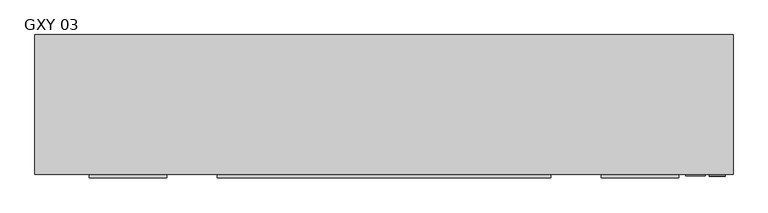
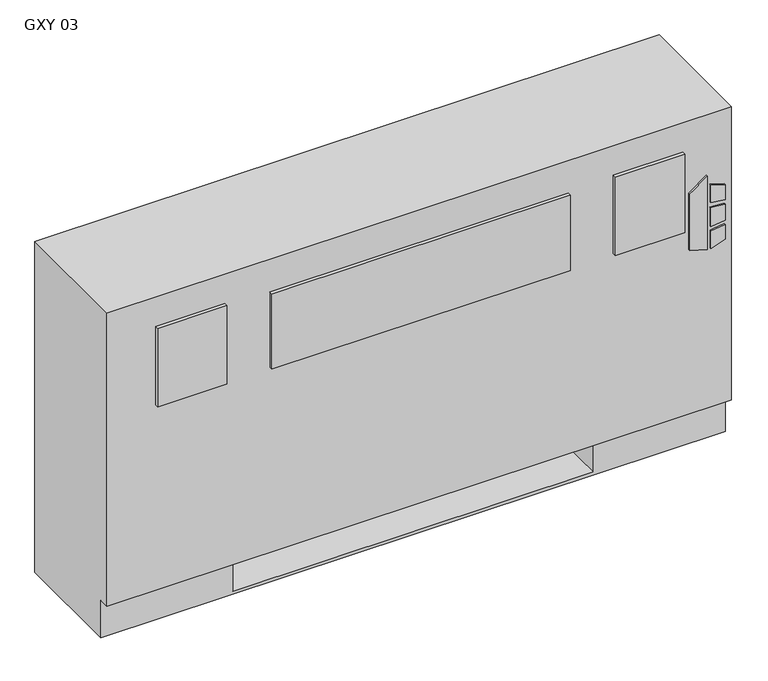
"""IFC4 building model written with IfcOpenShell, lengths in millimetres: proxy geometry, Vertical_Fan_Coil_Unit_-_GXY_-_IEC_-_2-Pipe_FS-FR_LH_2022 : GXY 03."""

from ifc_helpers import new_model, si_unit, point, frame, frame_2d, origin, place, context, project, spatial, polyline, circle_curve, trimmed, segment, composite_curve, outline, extrude, source, transform, mapped, element, save
from ifc_brep_helpers import plane_surface, revolved_surface, advanced_brep


def gxy_03_f8413b3b(model_context):
    return source(origin(), model_context, "Body", "SolidModel", [
        extrude(outline(polyline([(391.6086829, 646.1868862), (381.6606126, 678.3602728), (523.831537, 678.3602728), (500.8095309, 646.1868862), (391.6086829, 646.1868862)])), frame((0.0, 12.7, 0.0), z_axis=(0.0, 1.0, 0.0), x_axis=(0.0, 0.0, 1.0)), (0.0, 0.0, 1.0), 3.175),
        extrude(outline(polyline([(470.6079683, 685.1186058), (467.4055757, 711.2), (496.6344168, 711.2), (504.6988318, 685.1186058), (470.6079683, 685.1186058)])), frame((0.0, 12.7, 0.0), z_axis=(0.0, 1.0, 0.0), x_axis=(0.0, 0.0, 1.0)), (0.0, 0.0, 1.0), 3.175),
        extrude(outline(polyline([(418.7444414, 711.2), (415.0789404, 685.1186058), (381.6606126, 685.1186058), (390.2948498, 711.2), (418.7444414, 711.2)])), frame((0.0, 12.7, 0.0), z_axis=(0.0, 1.0, 0.0), x_axis=(0.0, 0.0, 1.0)), (0.0, 0.0, 1.0), 3.175),
        extrude(outline(polyline([(458.0596028, 711.2), (460.3414292, 685.1186058), (424.4038806, 685.1186058), (427.1451456, 711.2), (458.0596028, 711.2)])), frame((0.0, 12.7, 0.0), z_axis=(0.0, 1.0, 0.0), x_axis=(0.0, 0.0, 1.0)), (0.0, 0.0, 1.0), 3.175),
        extrude(outline(polyline([(-203.2, 9.525), (-330.2, 9.525), (-330.2, 15.875), (-203.2, 15.875), (-203.2, 9.525)])), frame((0.0, 0.0, 431.8), z_axis=(0.0, 0.0, 1.0), x_axis=(1.0, 0.0, 0.0)), (0.0, 0.0, 1.0), 152.4),
        extrude(outline(polyline([(425.45, 9.525), (-120.65, 9.525), (-120.65, 15.875), (425.45, 15.875), (425.45, 9.525)])), frame((0.0, 0.0, 431.8), z_axis=(0.0, 0.0, 1.0), x_axis=(1.0, 0.0, 0.0)), (0.0, 0.0, 1.0), 146.05),
        extrude(outline(polyline([(635.0, 9.525), (508.0, 9.525), (508.0, 15.875), (635.0, 15.875), (635.0, 9.525)])), frame((0.0, 0.0, 431.8), z_axis=(0.0, 0.0, 1.0), x_axis=(1.0, 0.0, 0.0)), (0.0, 0.0, 1.0), 152.4),
        extrude(outline(polyline([(482.6, 81.534), (482.6, 223.266), (603.25, 223.266), (603.25, 81.534), (482.6, 81.534)])), frame((0.0, 0.0, 327.025), z_axis=(0.0, 0.0, 1.0), x_axis=(1.0, 0.0, 0.0)), (0.0, 0.0, 1.0), 260.35),
        extrude(outline(composite_curve([segment(trimmed(circle_curve(frame_2d((78.9432, 398.5514)), 7.9375), [point((78.9432, 406.4889))], [point((78.9432, 390.6139))], False, "CARTESIAN"), True, "CONTINUOUS"), segment(trimmed(circle_curve(frame_2d((78.9432, 398.5514)), 7.9375), [point((78.9432, 390.6139))], [point((78.9432, 406.4889))], False, "CARTESIAN"), True, "CONTINUOUS")], self_intersect=False)), frame((-228.6, 0.0, 0.0), z_axis=(1.0, 0.0, 0.0), x_axis=(0.0, 1.0, 0.0)), (0.0, 0.0, 1.0), 50.8),
        extrude(outline(composite_curve([segment(trimmed(circle_curve(frame_2d((155.9052, 537.3878)), 7.9375), [point((155.9052, 545.3253))], [point((155.9052, 529.4503))], False, "CARTESIAN"), True, "CONTINUOUS"), segment(trimmed(circle_curve(frame_2d((155.9052, 537.3878)), 7.9375), [point((155.9052, 529.4503))], [point((155.9052, 545.3253))], False, "CARTESIAN"), True, "CONTINUOUS")], self_intersect=False)), frame((-228.6, 0.0, 0.0), z_axis=(1.0, 0.0, 0.0), x_axis=(0.0, 1.0, 0.0)), (0.0, 0.0, 1.0), 50.8),
        advanced_brep(
        [(723.9, 244.475, 641.35), (-419.1, 244.475, 641.35), (-419.1, 15.875, 641.35), (723.9, 15.875, 641.35), (-419.1, 244.475, 0.0), (723.9, 244.475, 0.0), (723.9, 34.925, 0.0), (-419.1, 34.925, 0.0), (482.6, 244.475, 73.025), (711.2, 244.475, 73.025), (711.2, 244.475, 628.65), (482.6, 244.475, 628.65), (482.6, 244.475, 418.0400565), (511.175, 244.475, 418.0400565), (511.175, 244.475, 388.4099435), (482.6, 244.475, 388.4099435), (482.6, 244.475, 290.5125), (511.175, 244.475, 290.5125), (511.175, 244.475, 261.9375), (482.6, 244.475, 261.9375), (482.6, 244.475, 119.0625), (511.175, 244.475, 119.0625), (511.175, 244.475, 90.4875), (482.6, 244.475, 90.4875), (-177.8, 244.475, 628.65), (-406.4, 244.475, 628.65), (-406.4, 244.475, 73.025), (-177.8, 244.475, 73.025), (-177.8, 244.475, 90.4875), (-206.375, 244.475, 90.4875), (-206.375, 244.475, 119.0625), (-177.8, 244.475, 119.0625), (-177.8, 244.475, 261.9375), (-206.375, 244.475, 261.9375), (-206.375, 244.475, 290.5125), (-177.8, 244.475, 290.5125), (-177.8, 244.475, 388.4099435), (-206.375, 244.475, 388.4099435), (-206.375, 244.475, 418.0400565), (-177.8, 244.475, 418.0400565), (500.8626, 244.475, 104.775), (489.7374, 244.475, 104.775), (500.8626, 244.475, 403.225), (489.7374, 244.475, 403.225), (500.8626, 244.475, 276.225), (489.7374, 244.475, 276.225), (-184.9374, 244.475, 104.775), (-196.0626, 244.475, 104.775), (-184.9374, 244.475, 276.225), (-196.0626, 244.475, 276.225), (-184.9374, 244.475, 403.225), (-196.0626, 244.475, 403.225), (-419.1, 34.925, 73.025), (-419.1, 15.875, 73.025), (723.9, 15.875, 73.025), (723.9, 34.925, 73.025), (-177.8, 34.925, 73.025), (-177.8, 219.075, 73.025), (482.6, 219.075, 73.025), (482.6, 34.925, 73.025), (482.6, 34.925, 6.35), (-177.8, 34.925, 6.35), (482.6, 41.275, 628.65), (711.2, 41.275, 628.65), (711.2, 41.275, 73.025), (482.6, 41.275, 73.025), (-177.8, 41.275, 628.65), (-177.8, 41.275, 73.025), (-406.4, 41.275, 73.025), (-406.4, 41.275, 628.65), (482.6, 219.075, 73.025), (482.6, 238.125, 90.4875), (482.6, 238.125, 119.0625), (482.6, 238.125, 261.9375), (482.6, 238.125, 290.5125), (482.6, 238.125, 388.4099435), (482.6, 238.125, 418.0400565), (-177.8, 219.075, 73.025), (-177.8, 238.125, 418.0400565), (-177.8, 238.125, 388.4099435), (-177.8, 238.125, 290.5125), (-177.8, 238.125, 261.9375), (-177.8, 238.125, 119.0625), (-177.8, 238.125, 90.4875), (-177.8, 219.075, 6.35), (482.6, 219.075, 6.35), (511.175, 238.125, 90.4875), (511.175, 238.125, 119.0625), (489.7374, 238.125, 104.775), (500.8626, 238.125, 104.775), (511.175, 238.125, 261.9375), (511.175, 238.125, 290.5125), (489.7374, 238.125, 276.225), (500.8626, 238.125, 276.225), (511.175, 238.125, 388.4099435), (511.175, 238.125, 418.0400565), (489.7374, 238.125, 403.225), (500.8626, 238.125, 403.225), (-206.375, 238.125, 119.0625), (-206.375, 238.125, 90.4875), (-196.0626, 238.125, 104.775), (-184.9374, 238.125, 104.775), (-206.375, 238.125, 290.5125), (-206.375, 238.125, 261.9375), (-196.0626, 238.125, 276.225), (-184.9374, 238.125, 276.225), (-206.375, 238.125, 418.0400565), (-206.375, 238.125, 388.4099435), (-196.0626, 238.125, 403.225), (-184.9374, 238.125, 403.225)],
        [
            (0, 1),
            (1, 2),
            (2, 3),
            (3, 0),
            (4, 5),
            (5, 6),
            (6, 7),
            (7, 4),
            (0, 5),
            (4, 1),
            (8, 9),
            (9, 10),
            (10, 11),
            (11, 12),
            (12, 13),
            (13, 14),
            (14, 15),
            (15, 16),
            (16, 17),
            (17, 18),
            (18, 19),
            (19, 20),
            (20, 21),
            (21, 22),
            (22, 23),
            (23, 8),
            (24, 25),
            (25, 26),
            (26, 27),
            (27, 28),
            (28, 29),
            (29, 30),
            (30, 31),
            (31, 32),
            (32, 33),
            (33, 34),
            (34, 35),
            (35, 36),
            (36, 37),
            (37, 38),
            (38, 39),
            (39, 24),
            (40, 41, circle_curve(frame((495.3, 244.475, 104.775), z_axis=(0.0, -1.0, 0.0), x_axis=(-1.0, 0.0, 0.0)), 5.5626)),
            (41, 40, circle_curve(frame((495.3, 244.475, 104.775), z_axis=(0.0, -1.0, 0.0), x_axis=(-1.0, 0.0, 0.0)), 5.5626)),
            (42, 43, circle_curve(frame((495.3, 244.475, 403.225), z_axis=(0.0, -1.0, 0.0), x_axis=(-1.0, 0.0, 0.0)), 5.5626)),
            (43, 42, circle_curve(frame((495.3, 244.475, 403.225), z_axis=(0.0, -1.0, 0.0), x_axis=(-1.0, 0.0, 0.0)), 5.5626)),
            (44, 45, circle_curve(frame((495.3, 244.475, 276.225), z_axis=(0.0, -1.0, 0.0), x_axis=(-1.0, 0.0, 0.0)), 5.5626)),
            (45, 44, circle_curve(frame((495.3, 244.475, 276.225), z_axis=(0.0, -1.0, 0.0), x_axis=(-1.0, 0.0, 0.0)), 5.5626)),
            (46, 47, circle_curve(frame((-190.5, 244.475, 104.775), z_axis=(0.0, -1.0, 0.0), x_axis=(-1.0, 0.0, 0.0)), 5.5626)),
            (47, 46, circle_curve(frame((-190.5, 244.475, 104.775), z_axis=(0.0, -1.0, 0.0), x_axis=(-1.0, 0.0, 0.0)), 5.5626)),
            (48, 49, circle_curve(frame((-190.5, 244.475, 276.225), z_axis=(0.0, -1.0, 0.0), x_axis=(-1.0, 0.0, 0.0)), 5.5626)),
            (49, 48, circle_curve(frame((-190.5, 244.475, 276.225), z_axis=(0.0, -1.0, 0.0), x_axis=(-1.0, 0.0, 0.0)), 5.5626)),
            (50, 51, circle_curve(frame((-190.5, 244.475, 403.225), z_axis=(0.0, -1.0, 0.0), x_axis=(-1.0, 0.0, 0.0)), 5.5626)),
            (51, 50, circle_curve(frame((-190.5, 244.475, 403.225), z_axis=(0.0, -1.0, 0.0), x_axis=(-1.0, 0.0, 0.0)), 5.5626)),
            (7, 52),
            (52, 53),
            (53, 2),
            (53, 54),
            (54, 3),
            (54, 55),
            (55, 6),
            (52, 56),
            (56, 57),
            (57, 58),
            (58, 59),
            (59, 55),
            (59, 60),
            (60, 61),
            (61, 56),
            (62, 63),
            (63, 64),
            (64, 65),
            (65, 62),
            (66, 67),
            (67, 68),
            (68, 69),
            (69, 66),
            (65, 70),
            (70, 8),
            (23, 71),
            (71, 72),
            (72, 20),
            (19, 73),
            (73, 74),
            (74, 16),
            (15, 75),
            (75, 76),
            (76, 12),
            (11, 62),
            (64, 9),
            (63, 10),
            (69, 25),
            (24, 66),
            (68, 26),
            (67, 77),
            (77, 27),
            (39, 78),
            (78, 79),
            (79, 36),
            (35, 80),
            (80, 81),
            (81, 32),
            (31, 82),
            (82, 83),
            (83, 28),
            (57, 84),
            (84, 85),
            (85, 58),
            (85, 60),
            (84, 61),
            (71, 86),
            (86, 87),
            (87, 72),
            (88, 89, circle_curve(frame((495.3, 238.125, 104.775), z_axis=(0.0, 1.0, 0.0), x_axis=(-1.0, 0.0, 0.0)), 5.5626)),
            (89, 88, circle_curve(frame((495.3, 238.125, 104.775), z_axis=(0.0, 1.0, 0.0), x_axis=(-1.0, 0.0, 0.0)), 5.5626)),
            (73, 90),
            (90, 91),
            (91, 74),
            (92, 93, circle_curve(frame((495.3, 238.125, 276.225), z_axis=(0.0, 1.0, 0.0), x_axis=(-1.0, 0.0, 0.0)), 5.5626)),
            (93, 92, circle_curve(frame((495.3, 238.125, 276.225), z_axis=(0.0, 1.0, 0.0), x_axis=(-1.0, 0.0, 0.0)), 5.5626)),
            (75, 94),
            (94, 95),
            (95, 76),
            (96, 97, circle_curve(frame((495.3, 238.125, 403.225), z_axis=(0.0, 1.0, 0.0), x_axis=(-1.0, 0.0, 0.0)), 5.5626)),
            (97, 96, circle_curve(frame((495.3, 238.125, 403.225), z_axis=(0.0, 1.0, 0.0), x_axis=(-1.0, 0.0, 0.0)), 5.5626)),
            (98, 99),
            (99, 83),
            (82, 98),
            (100, 101, circle_curve(frame((-190.5, 238.125, 104.775), z_axis=(0.0, 1.0, 0.0), x_axis=(-1.0, 0.0, 0.0)), 5.5626)),
            (101, 100, circle_curve(frame((-190.5, 238.125, 104.775), z_axis=(0.0, 1.0, 0.0), x_axis=(-1.0, 0.0, 0.0)), 5.5626)),
            (102, 103),
            (103, 81),
            (80, 102),
            (104, 105, circle_curve(frame((-190.5, 238.125, 276.225), z_axis=(0.0, 1.0, 0.0), x_axis=(-1.0, 0.0, 0.0)), 5.5626)),
            (105, 104, circle_curve(frame((-190.5, 238.125, 276.225), z_axis=(0.0, 1.0, 0.0), x_axis=(-1.0, 0.0, 0.0)), 5.5626)),
            (106, 107),
            (107, 79),
            (78, 106),
            (108, 109, circle_curve(frame((-190.5, 238.125, 403.225), z_axis=(0.0, 1.0, 0.0), x_axis=(-1.0, 0.0, 0.0)), 5.5626)),
            (109, 108, circle_curve(frame((-190.5, 238.125, 403.225), z_axis=(0.0, 1.0, 0.0), x_axis=(-1.0, 0.0, 0.0)), 5.5626)),
            (87, 21),
            (86, 22),
            (91, 17),
            (90, 18),
            (95, 13),
            (94, 14),
            (30, 98),
            (99, 29),
            (34, 102),
            (103, 33),
            (38, 106),
            (107, 37),
            (88, 41),
            (40, 89),
            (96, 43),
            (42, 97),
            (92, 45),
            (44, 93),
            (100, 47),
            (46, 101),
            (104, 49),
            (48, 105),
            (108, 51),
            (50, 109),
        ],
        [
            plane_surface(frame((-419.1, 244.475, 641.35), z_axis=(0.0, 0.0, 1.0), x_axis=(-1.0, 0.0, 0.0))),
            plane_surface(frame((-419.1, 244.475, 0.0), z_axis=(0.0, 0.0, -1.0), x_axis=(1.0, 0.0, 0.0))),
            plane_surface(frame((723.9, 244.475, 641.35), z_axis=(0.0, 1.0, 0.0), x_axis=(0.0, 0.0, -1.0))),
            plane_surface(frame((-419.1, 244.475, 641.35), z_axis=(-1.0, 0.0, 0.0), x_axis=(0.0, 0.0, -1.0))),
            plane_surface(frame((-419.1, 15.875, 641.35), z_axis=(0.0, -1.0, 0.0), x_axis=(0.0, 0.0, -1.0))),
            plane_surface(frame((723.9, 15.875, 641.35), z_axis=(1.0, 0.0, 0.0), x_axis=(0.0, 0.0, -1.0))),
            plane_surface(frame((-419.1, 15.875, 73.025), z_axis=(0.0, 0.0, -1.0), x_axis=(1.0, 0.0, 0.0))),
            plane_surface(frame((-419.1, 34.925, 73.025), z_axis=(0.0, -1.0, 0.0), x_axis=(1.0, 0.0, 0.0))),
            plane_surface(frame((482.6, 41.275, 628.65), z_axis=(0.0, 1.0, 0.0), x_axis=(0.0, 0.0, -1.0))),
            plane_surface(frame((482.6, 41.275, 628.65), z_axis=(1.0, 0.0, 0.0), x_axis=(0.0, 1.0, 0.0))),
            plane_surface(frame((482.6, 41.275, 73.025), z_axis=(0.0, 0.0, 1.0), x_axis=(0.0, 1.0, 0.0))),
            plane_surface(frame((711.2, 41.275, 73.025), z_axis=(-1.0, 0.0, 0.0), x_axis=(0.0, 1.0, 0.0))),
            plane_surface(frame((711.2, 41.275, 628.65), z_axis=(0.0, 0.0, -1.0), x_axis=(0.0, 1.0, 0.0))),
            plane_surface(frame((-177.8, 41.275, 628.65), z_axis=(0.0, 0.0, -1.0), x_axis=(0.0, 1.0, 0.0))),
            plane_surface(frame((-406.4, 41.275, 628.65), z_axis=(1.0, 0.0, 0.0), x_axis=(0.0, 1.0, 0.0))),
            plane_surface(frame((-406.4, 41.275, 73.025), z_axis=(0.0, 0.0, 1.0), x_axis=(0.0, 1.0, 0.0))),
            plane_surface(frame((-177.8, 41.275, 73.025), z_axis=(-1.0, 0.0, 0.0), x_axis=(0.0, 1.0, 0.0))),
            plane_surface(frame((482.6, 219.075, 73.025), z_axis=(0.0, -1.0, 0.0), x_axis=(0.0, 0.0, -1.0))),
            plane_surface(frame((482.6, 219.075, 73.025), z_axis=(-1.0, 0.0, 0.0), x_axis=(0.0, -1.0, 0.0))),
            plane_surface(frame((482.6, 219.075, 6.35), z_axis=(0.0, 0.0, 1.0), x_axis=(0.0, -1.0, 0.0))),
            plane_surface(frame((-177.8, 219.075, 6.35), z_axis=(1.0, 0.0, 0.0), x_axis=(0.0, -1.0, 0.0))),
            plane_surface(frame((511.175, 238.125, 119.0625), z_axis=(0.0, -1.0, 0.0), x_axis=(-1.0, 0.0, 0.0))),
            plane_surface(frame((482.6, 244.475, 119.0625), z_axis=(0.0, 0.0, 1.0), x_axis=(0.0, -1.0, 0.0))),
            plane_surface(frame((511.175, 244.475, 119.0625), z_axis=(1.0, 0.0, 0.0), x_axis=(0.0, -1.0, 0.0))),
            plane_surface(frame((511.175, 244.475, 90.4875), z_axis=(0.0, 0.0, -1.0), x_axis=(0.0, -1.0, 0.0))),
            plane_surface(frame((482.6, 244.475, 290.5125), z_axis=(0.0, 0.0, 1.0), x_axis=(0.0, -1.0, 0.0))),
            plane_surface(frame((511.175, 244.475, 290.5125), z_axis=(1.0, 0.0, 0.0), x_axis=(0.0, -1.0, 0.0))),
            plane_surface(frame((511.175, 244.475, 261.9375), z_axis=(0.0, 0.0, -1.0), x_axis=(0.0, -1.0, 0.0))),
            plane_surface(frame((482.6, 244.475, 418.0400565), z_axis=(0.0, 0.0, 1.0), x_axis=(0.0, -1.0, 0.0))),
            plane_surface(frame((511.175, 244.475, 418.0400565), z_axis=(1.0, 0.0, 0.0), x_axis=(0.0, -1.0, 0.0))),
            plane_surface(frame((511.175, 244.475, 388.4099435), z_axis=(0.0, 0.0, -1.0), x_axis=(0.0, -1.0, 0.0))),
            plane_surface(frame((-206.375, 244.475, 119.0625), z_axis=(0.0, 0.0, 1.0), x_axis=(0.0, -1.0, 0.0))),
            plane_surface(frame((-177.8, 244.475, 90.4875), z_axis=(0.0, 0.0, -1.0), x_axis=(0.0, -1.0, 0.0))),
            plane_surface(frame((-206.375, 244.475, 90.4875), z_axis=(-1.0, 0.0, 0.0), x_axis=(0.0, -1.0, 0.0))),
            plane_surface(frame((-206.375, 244.475, 290.5125), z_axis=(0.0, 0.0, 1.0), x_axis=(0.0, -1.0, 0.0))),
            plane_surface(frame((-177.8, 244.475, 261.9375), z_axis=(0.0, 0.0, -1.0), x_axis=(0.0, -1.0, 0.0))),
            plane_surface(frame((-206.375, 244.475, 261.9375), z_axis=(-1.0, 0.0, 0.0), x_axis=(0.0, -1.0, 0.0))),
            plane_surface(frame((-206.375, 244.475, 418.0400565), z_axis=(0.0, 0.0, 1.0), x_axis=(0.0, -1.0, 0.0))),
            plane_surface(frame((-177.8, 244.475, 388.4099435), z_axis=(0.0, 0.0, -1.0), x_axis=(0.0, -1.0, 0.0))),
            plane_surface(frame((-206.375, 244.475, 388.4099435), z_axis=(-1.0, 0.0, 0.0), x_axis=(0.0, -1.0, 0.0))),
            revolved_surface(polyline([(489.73740000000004, 238.125, 104.775), (489.73740000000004, 244.475, 104.775)]), (495.3, 244.475, 104.775), (0.0, -1.0, 0.0)),
            revolved_surface(polyline([(489.73740000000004, 238.125, 403.225), (489.73740000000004, 244.475, 403.225)]), (495.3, 244.475, 403.225), (0.0, -1.0, 0.0)),
            revolved_surface(polyline([(489.73740000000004, 238.125, 276.225), (489.73740000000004, 244.475, 276.225)]), (495.3, 244.475, 276.225), (0.0, -1.0, 0.0)),
            revolved_surface(polyline([(-196.0626, 238.125, 104.775), (-196.0626, 244.475, 104.775)]), (-190.5, 244.475, 104.775), (0.0, -1.0, 0.0)),
            revolved_surface(polyline([(-196.0626, 238.125, 276.225), (-196.0626, 244.475, 276.225)]), (-190.5, 244.475, 276.225), (0.0, -1.0, 0.0)),
            revolved_surface(polyline([(-196.0626, 238.125, 403.225), (-196.0626, 244.475, 403.225)]), (-190.5, 244.475, 403.225), (0.0, -1.0, 0.0)),
        ],
        [
            (0, [[1, 2, 3, 4]]),
            (1, [[5, 6, 7, 8]]),
            (2, [[-1, 9, -5, 10], [11, 12, 13, 14, 15, 16, 17, 18, 19, 20, 21, 22, 23, 24, 25, 26], [27, 28, 29, 30, 31, 32, 33, 34, 35, 36, 37, 38, 39, 40, 41, 42], [43, 44], [45, 46], [47, 48], [49, 50], [51, 52], [53, 54]]),
            (3, [[-2, -10, -8, 55, 56, 57]]),
            (4, [[-3, -57, 58, 59]]),
            (5, [[-4, -59, 60, 61, -6, -9]]),
            (6, [[-56, 62, 63, 64, 65, 66, -60, -58]]),
            (7, [[-7, -61, -66, 67, 68, 69, -62, -55]]),
            (8, [[70, 71, 72, 73]]),
            (8, [[74, 75, 76, 77]]),
            (9, [[-73, 78, 79, -26, 80, 81, 82, -22, 83, 84, 85, -18, 86, 87, 88, -14, 89]]),
            (10, [[-72, 90, -11, -79, -78]]),
            (11, [[-71, 91, -12, -90]]),
            (12, [[-70, -89, -13, -91]]),
            (13, [[-77, 92, -27, 93]]),
            (14, [[-76, 94, -28, -92]]),
            (15, [[-75, 95, 96, -29, -94]]),
            (16, [[-74, -93, -42, 97, 98, 99, -38, 100, 101, 102, -34, 103, 104, 105, -30, -96, -95]]),
            (17, [[-64, 106, 107, 108]]),
            (18, [[-108, 109, -67, -65]]),
            (19, [[-107, 110, -68, -109]]),
            (20, [[-106, -63, -69, -110]]),
            (21, [[111, 112, 113, -81], [114, 115]]),
            (21, [[116, 117, 118, -84], [119, 120]]),
            (21, [[121, 122, 123, -87], [124, 125]]),
            (21, [[126, 127, -104, 128], [129, 130]]),
            (21, [[131, 132, -101, 133], [134, 135]]),
            (21, [[136, 137, -98, 138], [139, 140]]),
            (22, [[-113, 141, -23, -82]]),
            (23, [[-112, 142, -24, -141]]),
            (24, [[-111, -80, -25, -142]]),
            (25, [[-118, 143, -19, -85]]),
            (26, [[-117, 144, -20, -143]]),
            (27, [[-116, -83, -21, -144]]),
            (28, [[-123, 145, -15, -88]]),
            (29, [[-122, 146, -16, -145]]),
            (30, [[-121, -86, -17, -146]]),
            (31, [[-128, -103, -33, 147]]),
            (32, [[-127, 148, -31, -105]]),
            (33, [[-126, -147, -32, -148]]),
            (34, [[-133, -100, -37, 149]]),
            (35, [[-132, 150, -35, -102]]),
            (36, [[-131, -149, -36, -150]]),
            (37, [[-138, -97, -41, 151]]),
            (38, [[-137, 152, -39, -99]]),
            (39, [[-136, -151, -40, -152]]),
            (40, [[153, -43, 154, -114]]),
            (40, [[-153, -115, -154, -44]]),
            (41, [[155, -45, 156, -124]]),
            (41, [[-155, -125, -156, -46]]),
            (42, [[157, -47, 158, -119]]),
            (42, [[-157, -120, -158, -48]]),
            (43, [[159, -49, 160, -129]]),
            (43, [[-159, -130, -160, -50]]),
            (44, [[161, -51, 162, -134]]),
            (44, [[-161, -135, -162, -52]]),
            (45, [[163, -53, 164, -139]]),
            (45, [[-163, -140, -164, -54]]),
        ],
    ),
    ])


if __name__ == "__main__":
    model = new_model("IFC4")
    model_context = context("Model", 3, world=origin())
    ifc_project = project(units=[si_unit("LENGTHUNIT", "METRE", prefix="MILLI")], contexts=[model_context])
    site = spatial("IfcSite", under=ifc_project)
    building = spatial("IfcBuilding", under=site)
    placement = place(None, origin())
    gxy_03_shape = gxy_03_f8413b3b(model_context)
    element("IfcBuildingElementProxy", 1, Name="Vertical_Fan_Coil_Unit_-_GXY_-_IEC_-_2-Pipe_FS-FR_LH_2022 : GXY 03", ObjectType="Vertical_Fan_Coil_Unit_-_GXY_-_IEC_-_2-Pipe_FS-FR_LH_2022 : GXY 03", at=placement, inside=building, context=model_context, shape_type="MappedRepresentation", body=[
        mapped(gxy_03_shape, transform((0.0, 0.0, 0.0), x_axis=(1.0, 0.0, 0.0), y_axis=(0.0, 1.0, 0.0), z_axis=(0.0, 0.0, 1.0))),
    ])
    save(model, "model.ifc")
